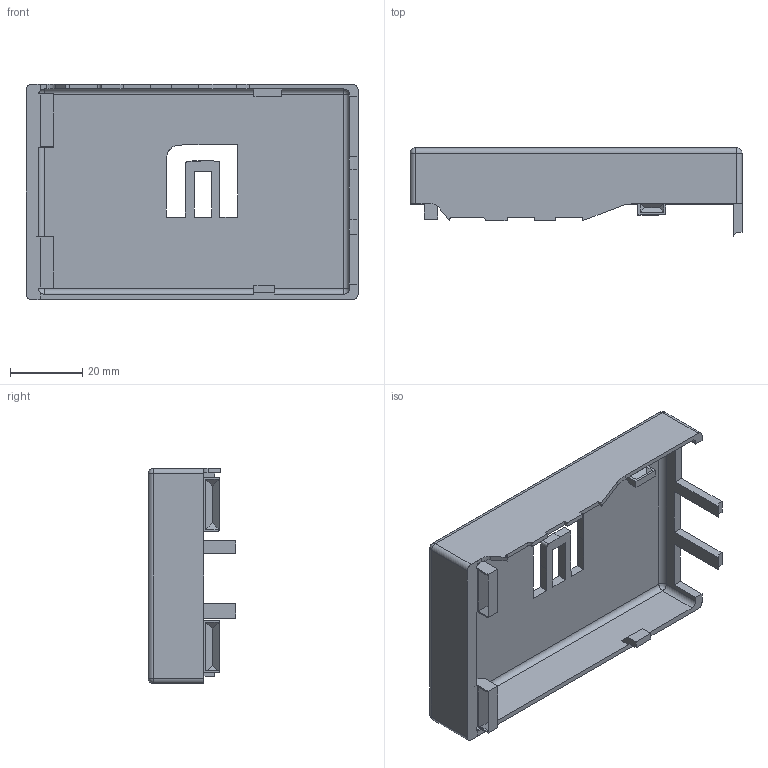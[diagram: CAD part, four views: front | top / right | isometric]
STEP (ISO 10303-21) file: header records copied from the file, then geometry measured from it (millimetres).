
FILE_DESCRIPTION(/* description */ (''),/* implementation_level */ '2;1');
FILE_NAME(/* name */ 'Top.step',/* time_stamp */ '2023-10-05T12:51:37-04:00',/* author */ (''),/* organization */ (''),/* preprocessor_version */ 'ST-DEVELOPER v20',/* originating_system */ 'Autodesk Translation Framework v12.14.0.127',/* authorisation */ '');
FILE_SCHEMA (('AUTOMOTIVE_DESIGN { 1 0 10303 214 3 1 1 }'));
Length unit declared in the file: millimetre
Products named in the file (2): PiWu; V2
Assembly tree (1 placements, depth 2):
  PiWu
    V2
Bounding box: 92.1 x 24.4 x 59.65 mm (x, y, z)
Volume: 20927.6 mm3; surface area: 19446.1 mm2
Topology: 1 solids, 1 shells, 134 faces, 362 edges, 230 vertices
Faces by surface type: plane 99, cylinder 22, sphere 8, bspline 5
Entity records: 4198 total; most frequent: CARTESIAN_POINT 801, ORIENTED_EDGE 724, DIRECTION 663, EDGE_CURVE 362, LINE 305, VECTOR 305, VERTEX_POINT 230, AXIS2_PLACEMENT_3D 179
